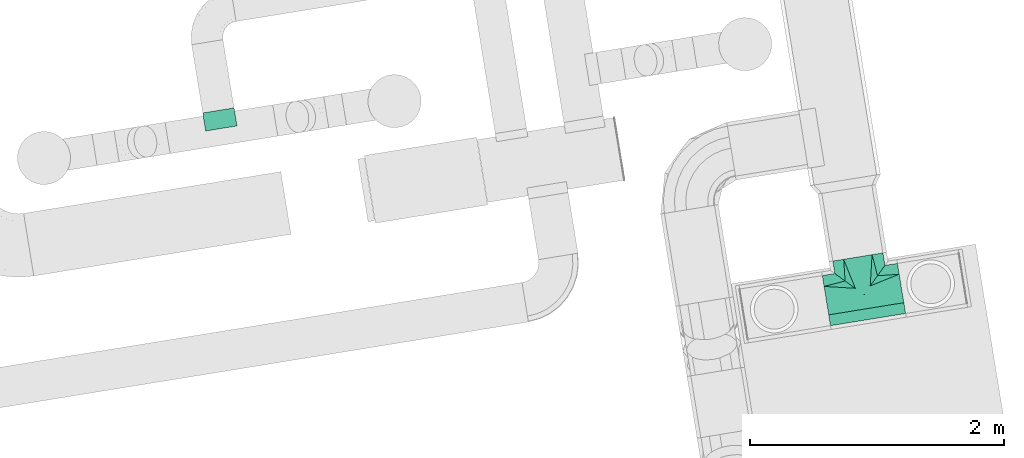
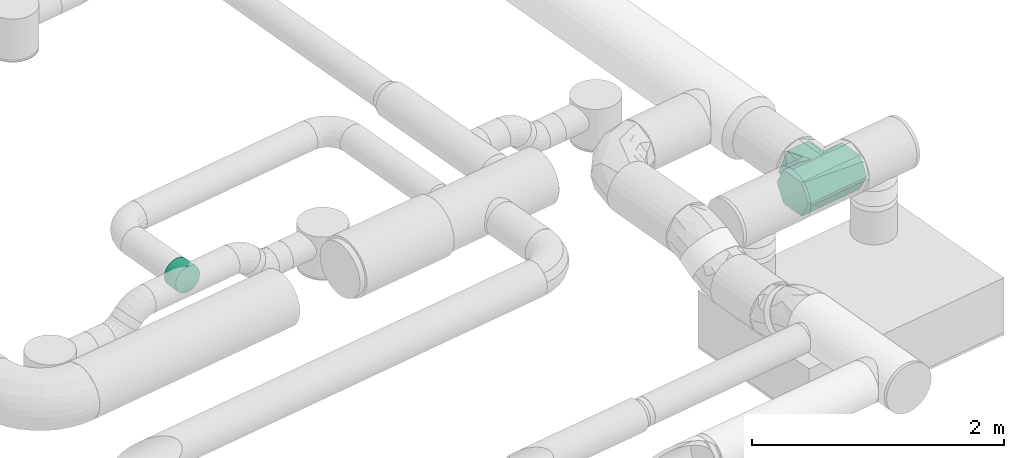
# One storey, part 32 of 39: 2 flow fittings.
"""IFC2X3 building model written with IfcOpenShell, lengths in millimetres."""

from ifc_helpers import new_model, entity, si_unit, converted_unit, derived_unit, direction, frame, origin, origin_with_axes, place, context, subcontext, project, spatial, faceted_brep, source, transform, mapped, material, type_object, element, save


model = new_model("IFC2X3")

# Units and contexts
model_context = context("Model", 3, precision=0.01, world=origin(), true_north=direction((6.12323399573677e-17, 1.0)))
plan_context = context("Plan", 3, precision=1e-05, world=origin_with_axes())
body_context = subcontext(model_context, "Body", "Model", "MODEL_VIEW")
ifc_project = project(units=[converted_unit("PLANEANGLEUNIT", "DEGREE", entity("IfcPositiveLengthMeasure", 0.0174532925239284), si_unit("PLANEANGLEUNIT", "RADIAN"), dimensions=[0, 0, 0, 0, 0, 0, 0]), si_unit("AREAUNIT", "SQUARE_METRE"), si_unit("LENGTHUNIT", "METRE", prefix="MILLI"), si_unit("MASSUNIT", "GRAM", prefix="KILO"), si_unit("POWERUNIT", "WATT"), si_unit("PRESSUREUNIT", "PASCAL", prefix="KILO"), si_unit("FORCEUNIT", "NEWTON", prefix="KILO"), si_unit("ELECTRICVOLTAGEUNIT", "VOLT"), si_unit("ELECTRICCURRENTUNIT", "AMPERE"), si_unit("THERMODYNAMICTEMPERATUREUNIT", "DEGREE_CELSIUS"), si_unit("TIMEUNIT", "SECOND"), si_unit("VOLUMEUNIT", "CUBIC_METRE"), derived_unit("LINEARVELOCITYUNIT", [(si_unit("LENGTHUNIT", "METRE"), 1), (si_unit("TIMEUNIT", "SECOND"), -1)]), derived_unit("VOLUMETRICFLOWRATEUNIT", [(si_unit("VOLUMEUNIT", "CUBIC_METRE"), 1), (si_unit("TIMEUNIT", "SECOND"), -1)]), derived_unit("THERMALTRANSMITTANCEUNIT", [(si_unit("POWERUNIT", "WATT"), 1), (si_unit("THERMODYNAMICTEMPERATUREUNIT", "KELVIN"), -1), (si_unit("AREAUNIT", "SQUARE_METRE"), -1)]), derived_unit("SOUNDPRESSUREUNIT", [(si_unit("PRESSUREUNIT", "PASCAL"), 1)])], contexts=[model_context, plan_context])

# Site, building, storey
site_placement = place(None, frame((-0.00071070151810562, 0.00438415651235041, 0.0), z_axis=(0.0, 0.0, 1.0), x_axis=(-0.160236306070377, 0.987078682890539, 0.0)))
site = spatial("IfcSite", under=ifc_project, at=site_placement, Name="Default", CompositionType="ELEMENT")
building_placement = place(site_placement, origin_with_axes())
building = spatial("IfcBuilding", under=site, at=building_placement, CompositionType="ELEMENT")
storey_placement = place(building_placement, frame((0.0, 0.0, 50999.9999999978), z_axis=(0.0, 0.0, 1.0), x_axis=(1.0, 0.0, 0.0)))
storey = spatial("IfcBuildingStorey", under=building, at=storey_placement, Name="Nivå D", CompositionType="ELEMENT", Elevation=50999.9999999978)

# Flow fittings
ifc_material = material(Name="<Unnamed>")
duct_fitting_type_1 = type_object("IfcDuctFittingType", Name="magicirc_tee_centric_90_1:magicirc_tee_centric_90_001", PredefinedType="NOTDEFINED", material=ifc_material)
shared_shape_1 = source(origin(), body_context, "Body", "Brep", [
    faceted_brep([(-300.0, -200.0, 0.0), (-300.0, -156.806474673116, 82.2983865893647), (-300.0, -113.612949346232, 164.59677317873), (-300.0, 0.0, 164.596773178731), (-300.0, 113.61294934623, 164.596773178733), (-300.0, 200.0, 0.0), (-300.0, 113.612949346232, -164.596773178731), (-300.0, 0.0, -164.596773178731), (-300.0, -113.61294934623, -164.596773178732), (-300.0, -156.806474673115, -82.2983865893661), (300.0, 0.0, -164.596773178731), (300.0, 113.61294934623, -164.596773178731), (300.0, 200.0, 0.0), (300.0, 113.612949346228, 164.596773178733), (300.0, 0.0, 164.596773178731), (300.0, -113.612949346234, 164.59677317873), (300.0, -156.806474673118, 82.2983865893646), (300.0, -200.0, 0.0), (300.0, -156.806474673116, -82.2983865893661), (300.0, -113.612949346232, -164.596773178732), (200.0, -200.0, 0.0), (183.142354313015, -183.142354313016, 80.3671453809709), (-200.0, -200.0, 0.0), (-183.142354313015, -183.142354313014, 80.3671453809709), (129.181493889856, -129.181493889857, 152.683141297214), (59.5456298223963, -59.5456298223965, 190.930138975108), (-129.181493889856, -129.181493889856, 152.683141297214), (0.0, 0.0, 200.0), (-59.5456298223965, -59.5456298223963, 190.930138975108), (-183.142354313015, -183.142354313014, -80.3671453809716), (0.0, 0.0, -200.0), (59.5456298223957, -59.5456298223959, -190.930138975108), (-129.181493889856, -129.181493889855, -152.683141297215), (-59.5456298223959, -59.5456298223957, -190.930138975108), (129.181493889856, -129.181493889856, -152.683141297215), (183.142354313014, -183.142354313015, -80.3671453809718), (0.0, -300.0, -164.596773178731), (113.612949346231, -300.0, -164.596773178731), (156.806474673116, -300.0, -82.2983865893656), (200.0, -300.0, 0.0), (156.806474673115, -300.0, 82.298386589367), (113.612949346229, -300.0, 164.596773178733), (0.0, -300.0, 164.596773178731), (-113.612949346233, -300.0, 164.59677317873), (-156.806474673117, -300.0, 82.2983865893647), (-200.0, -300.0, 0.0), (-156.806474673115, -300.0, -82.2983865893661), (-113.612949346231, -300.0, -164.596773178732)], [[[0, 1, 2, 3, 4, 5, 6, 7, 8, 9]], [[10, 11, 12, 13, 14, 15, 16, 17, 18, 19]], [[20, 17, 21]], [[0, 22, 23]], [[24, 21, 16]], [[16, 15, 24]], [[25, 15, 14]], [[0, 23, 1]], [[1, 26, 2]], [[21, 17, 16]], [[26, 1, 23]], [[14, 13, 27]], [[14, 27, 25]], [[5, 4, 13, 12]], [[2, 28, 3]], [[2, 26, 28]], [[13, 4, 27]], [[4, 3, 27]], [[27, 3, 28]], [[24, 15, 25]], [[6, 5, 12, 11]], [[29, 0, 9]], [[30, 11, 10]], [[10, 19, 31]], [[6, 11, 30]], [[7, 6, 30]], [[32, 8, 33]], [[33, 7, 30]], [[33, 8, 7]], [[18, 34, 19]], [[35, 18, 17]], [[17, 20, 35]], [[29, 22, 0]], [[34, 18, 35]], [[30, 10, 31]], [[8, 32, 9]], [[9, 32, 29]], [[34, 31, 19]], [[36, 37, 38, 39, 40, 41, 42, 43, 44, 45, 46, 47]], [[22, 45, 23]], [[23, 45, 44, 43]], [[42, 41, 25, 28, 43]], [[26, 23, 43]], [[26, 43, 28]], [[21, 41, 40, 39]], [[21, 39, 20]], [[27, 28, 25]], [[21, 24, 41]], [[41, 24, 25]], [[20, 39, 35]], [[35, 39, 38, 37]], [[31, 37, 36, 47, 33]], [[34, 35, 37]], [[31, 34, 37]], [[29, 47, 46, 45]], [[29, 45, 22]], [[47, 32, 33]], [[30, 31, 33]], [[29, 32, 47]]]),
])
flow_fitting_1_placement = place(storey_placement, frame((771571.619644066, -601972.905078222, 3300.0), z_axis=(0.0, 0.0, 1.0), x_axis=(0.0, 1.0, 0.0)))
element("IfcFlowFitting", 1, at=flow_fitting_1_placement, inside=storey, type_object=duct_fitting_type_1, material=ifc_material, Name="magicirc_tee_centric_90_1:magicirc_tee_centric_90_001", ObjectType="magicirc_tee_centric_90_1:magicirc_tee_centric_90_001", context=body_context, shape_type="MappedRepresentation", body=[
    mapped(shared_shape_1, transform((0.0, 0.0, 0.0), scale=1.0)),
])
duct_fitting_type_2 = type_object("IfcDuctFittingType", Name="magicirc_tapoutlet_1:magicirc_tapoutlet_001", PredefinedType="NOTDEFINED", material=ifc_material)
shared_shape_2 = source(origin(), body_context, "Body", "Brep", [
    faceted_brep([(-118.903999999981, 0.0, -125.0), (-118.903999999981, -32.3523806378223, -120.740728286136), (-118.903999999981, -62.500000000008, -108.253175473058), (-118.903999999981, -88.3883476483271, -88.3883476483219), (-118.903999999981, -108.253175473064, -62.5000000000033), (-118.903999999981, -120.740728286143, -32.352380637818), (-118.903999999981, -125.0, 0.0), (-118.903999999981, -120.740728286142, 32.3523806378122), (-118.903999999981, -108.253175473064, 62.4999999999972), (-118.903999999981, -88.3883476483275, 88.3883476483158), (-118.903999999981, -62.5000000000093, 108.253175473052), (-118.903999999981, -32.3523806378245, 120.740728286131), (-118.903999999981, 0.0, 125.0), (-118.903999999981, 32.3523806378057, 120.740728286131), (-118.903999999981, 62.4999999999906, 108.253175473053), (-118.903999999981, 88.3883476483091, 88.3883476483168), (-118.903999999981, 108.253175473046, 62.4999999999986), (-118.903999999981, 120.740728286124, 32.3523806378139), (-118.903999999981, 125.0, 0.0), (-118.903999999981, 120.740728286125, -32.3523806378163), (-118.903999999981, 108.253175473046, -62.5000000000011), (-118.903999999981, 88.3883476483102, -88.3883476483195), (-118.903999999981, 62.4999999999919, -108.253175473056), (-118.903999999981, 32.3523806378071, -120.740728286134), (0.0, 0.0, 125.0), (25.0, 0.0, 125.0), (25.0, 32.3523806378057, 120.740728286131), (0.0, 32.3523806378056, 120.740728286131), (25.0, 62.4999999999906, 108.253175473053), (0.0, 62.4999999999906, 108.253175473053), (25.0, 88.3883476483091, 88.3883476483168), (0.0, 88.3883476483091, 88.3883476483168), (0.0, 108.253175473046, 62.4999999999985), (25.0, 108.253175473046, 62.4999999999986), (25.0, 120.740728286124, 32.3523806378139), (0.0, 120.740728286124, 32.3523806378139), (25.0, 125.0, 0.0), (0.0, 125.0, 0.0), (0.0, 120.740728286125, -32.3523806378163), (25.0, 120.740728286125, -32.3523806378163), (25.0, 108.253175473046, -62.5000000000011), (0.0, 108.253175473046, -62.5000000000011), (25.0, 88.3883476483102, -88.3883476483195), (0.0, 88.3883476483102, -88.3883476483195), (0.0, 62.4999999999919, -108.253175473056), (25.0, 62.4999999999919, -108.253175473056), (25.0, 32.3523806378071, -120.740728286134), (0.0, 32.3523806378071, -120.740728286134), (25.0, 0.0, -125.0), (0.0, 0.0, -125.0), (25.0, -32.3523806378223, -120.740728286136), (0.0, -32.3523806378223, -120.740728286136), (25.0, -62.500000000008, -108.253175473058), (0.0, -62.500000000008, -108.253175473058), (25.0, -88.3883476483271, -88.3883476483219), (0.0, -88.3883476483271, -88.3883476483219), (0.0, -108.253175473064, -62.5000000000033), (25.0, -108.253175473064, -62.5000000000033), (25.0, -120.740728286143, -32.352380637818), (0.0, -120.740728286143, -32.352380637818), (25.0, -125.0, 0.0), (0.0, -125.0, 0.0), (25.0, -120.740728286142, 32.3523806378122), (0.0, -120.740728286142, 32.3523806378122), (25.0, -108.253175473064, 62.4999999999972), (0.0, -108.253175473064, 62.4999999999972), (25.0, -88.3883476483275, 88.3883476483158), (0.0, -88.3883476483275, 88.3883476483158), (0.0, -62.5000000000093, 108.253175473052), (25.0, -62.5000000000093, 108.253175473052), (25.0, -32.3523806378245, 120.740728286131), (0.0, -32.3523806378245, 120.740728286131)], [[[0, 1, 2, 3, 4, 5, 6, 7, 8, 9, 10, 11, 12, 13, 14, 15, 16, 17, 18, 19, 20, 21, 22, 23]], [[13, 12, 24, 25, 26, 27]], [[14, 13, 27, 26, 28, 29]], [[29, 28, 30, 31, 15, 14]], [[17, 16, 32, 33, 34, 35]], [[18, 17, 35, 34, 36, 37]], [[31, 30, 33, 32, 16, 15]], [[38, 39, 40, 41, 20, 19]], [[37, 36, 39, 38, 19, 18]], [[21, 20, 41, 40, 42, 43]], [[23, 22, 44, 45, 46, 47]], [[0, 23, 47, 46, 48, 49]], [[43, 42, 45, 44, 22, 21]], [[1, 0, 49, 48, 50, 51]], [[2, 1, 51, 50, 52, 53]], [[53, 52, 54, 55, 3, 2]], [[5, 4, 56, 57, 58, 59]], [[6, 5, 59, 58, 60, 61]], [[55, 54, 57, 56, 4, 3]], [[7, 6, 61, 60, 62, 63]], [[8, 7, 63, 62, 64, 65]], [[65, 64, 66, 67, 9, 8]], [[11, 10, 68, 69, 70, 71]], [[12, 11, 71, 70, 25, 24]], [[67, 66, 69, 68, 10, 9]], [[46, 45, 42, 40, 39, 36, 34, 33, 30, 28, 26, 25, 70, 69, 66, 64, 62, 60, 58, 57, 54, 52, 50, 48]]]),
    faceted_brep([(25.0, 32.352380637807, -120.740728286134), (25.0, 62.4999999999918, -108.253175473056), (25.0, 88.3883476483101, -88.3883476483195), (25.0, 108.253175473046, -62.5000000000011), (25.0, 120.740728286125, -32.3523806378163), (25.0, 125.0, 0.0), (25.0, 120.740728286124, 32.3523806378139), (25.0, 108.253175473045, 62.4999999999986), (25.0, 88.388347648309, 88.3883476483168), (25.0, 62.4999999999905, 108.253175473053), (25.0, 32.3523806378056, 120.740728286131), (25.0, 0.0, 125.0), (25.0, -32.3523806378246, 120.740728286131), (25.0, -62.5000000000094, 108.253175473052), (25.0, -88.3883476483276, 88.3883476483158), (25.0, -108.253175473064, 62.4999999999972), (25.0, -120.740728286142, 32.3523806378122), (25.0, -125.0, 0.0), (25.0, -120.740728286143, -32.352380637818), (25.0, -108.253175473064, -62.5000000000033), (25.0, -88.3883476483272, -88.3883476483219), (25.0, -62.500000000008, -108.253175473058), (25.0, -32.3523806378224, -120.740728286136), (25.0, 0.0, -125.0), (0.0, 0.0, 125.0), (0.0, 32.3523806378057, 120.740728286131), (-118.903999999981, 32.3523806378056, 120.740728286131), (-118.903999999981, 0.0, 125.0), (0.0, 62.4999999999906, 108.253175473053), (-118.903999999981, 62.4999999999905, 108.253175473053), (0.0, 88.3883476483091, 88.3883476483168), (-118.903999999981, 88.388347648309, 88.3883476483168), (0.0, 108.253175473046, 62.4999999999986), (0.0, 120.740728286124, 32.3523806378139), (-118.903999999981, 120.740728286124, 32.3523806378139), (-118.903999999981, 108.253175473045, 62.4999999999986), (0.0, 125.0, 0.0), (-118.903999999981, 125.0, 0.0), (0.0, 120.740728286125, -32.3523806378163), (-118.903999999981, 120.740728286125, -32.3523806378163), (0.0, 108.253175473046, -62.5000000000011), (-118.903999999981, 108.253175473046, -62.5000000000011), (0.0, 88.3883476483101, -88.3883476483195), (-118.903999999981, 88.3883476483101, -88.3883476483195), (0.0, 0.0, -125.0), (-118.903999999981, 0.0, -125.0), (-118.903999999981, 32.352380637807, -120.740728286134), (0.0, 32.3523806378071, -120.740728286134), (-118.903999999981, 62.4999999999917, -108.253175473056), (0.0, 62.4999999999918, -108.253175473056), (0.0, -32.3523806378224, -120.740728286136), (-118.903999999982, -32.3523806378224, -120.740728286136), (0.0, -62.500000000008, -108.253175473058), (-118.903999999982, -62.5000000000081, -108.253175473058), (0.0, -88.3883476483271, -88.3883476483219), (-118.903999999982, -88.3883476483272, -88.3883476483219), (0.0, -108.253175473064, -62.5000000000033), (0.0, -120.740728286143, -32.352380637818), (-118.903999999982, -120.740728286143, -32.352380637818), (-118.903999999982, -108.253175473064, -62.5000000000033), (0.0, -125.0, 0.0), (-118.903999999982, -125.0, 0.0), (0.0, -120.740728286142, 32.3523806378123), (-118.903999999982, -120.740728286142, 32.3523806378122), (0.0, -108.253175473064, 62.4999999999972), (-118.903999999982, -108.253175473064, 62.4999999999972), (0.0, -88.3883476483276, 88.3883476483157), (-118.903999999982, -88.3883476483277, 88.3883476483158), (0.0, -62.5000000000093, 108.253175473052), (0.0, -32.3523806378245, 120.740728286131), (-118.903999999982, -32.3523806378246, 120.740728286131), (-118.903999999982, -62.5000000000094, 108.253175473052)], [[[0, 1, 2, 3, 4, 5, 6, 7, 8, 9, 10, 11, 12, 13, 14, 15, 16, 17, 18, 19, 20, 21, 22, 23]], [[24, 11, 10, 25, 26, 27]], [[25, 10, 9, 28, 29, 26]], [[28, 9, 8, 30, 31, 29]], [[32, 7, 6, 33, 34, 35]], [[33, 6, 5, 36, 37, 34]], [[30, 8, 7, 32, 35, 31]], [[36, 5, 4, 38, 39, 37]], [[38, 4, 3, 40, 41, 39]], [[40, 3, 2, 42, 43, 41]], [[0, 23, 44, 45, 46, 47]], [[1, 0, 47, 46, 48, 49]], [[42, 2, 1, 49, 48, 43]], [[44, 23, 22, 50, 51, 45]], [[50, 22, 21, 52, 53, 51]], [[52, 21, 20, 54, 55, 53]], [[56, 19, 18, 57, 58, 59]], [[57, 18, 17, 60, 61, 58]], [[54, 20, 19, 56, 59, 55]], [[60, 17, 16, 62, 63, 61]], [[62, 16, 15, 64, 65, 63]], [[64, 15, 14, 66, 67, 65]], [[68, 13, 12, 69, 70, 71]], [[69, 12, 11, 24, 27, 70]], [[66, 14, 13, 68, 71, 67]], [[45, 51, 53, 55, 59, 58, 61, 63, 65, 67, 71, 70, 27, 26, 29, 31, 35, 34, 37, 39, 41, 43, 48, 46]]]),
    faceted_brep([(-118.903999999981, 0.0, -125.0), (-118.903999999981, -32.3523806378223, -120.740728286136), (-118.903999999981, -62.500000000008, -108.253175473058), (-118.903999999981, -88.3883476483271, -88.3883476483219), (-118.903999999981, -108.253175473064, -62.5000000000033), (-118.903999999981, -120.740728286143, -32.352380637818), (-118.903999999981, -125.0, 0.0), (-118.903999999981, -120.740728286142, 32.3523806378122), (-118.903999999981, -108.253175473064, 62.4999999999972), (-118.903999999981, -88.3883476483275, 88.3883476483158), (-118.903999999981, -62.5000000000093, 108.253175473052), (-118.903999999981, -32.3523806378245, 120.740728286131), (-118.903999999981, 0.0, 125.0), (-118.903999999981, 32.3523806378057, 120.740728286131), (-118.903999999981, 62.4999999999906, 108.253175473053), (-118.903999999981, 88.3883476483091, 88.3883476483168), (-118.903999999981, 108.253175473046, 62.4999999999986), (-118.903999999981, 120.740728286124, 32.3523806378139), (-118.903999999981, 125.0, 0.0), (-118.903999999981, 120.740728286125, -32.3523806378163), (-118.903999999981, 108.253175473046, -62.5000000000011), (-118.903999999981, 88.3883476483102, -88.3883476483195), (-118.903999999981, 62.4999999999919, -108.253175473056), (-118.903999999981, 32.3523806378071, -120.740728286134), (0.0, 0.0, 125.0), (25.0, 0.0, 125.0), (25.0, 32.3523806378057, 120.740728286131), (0.0, 32.3523806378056, 120.740728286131), (25.0, 62.4999999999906, 108.253175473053), (0.0, 62.4999999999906, 108.253175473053), (25.0, 88.3883476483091, 88.3883476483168), (0.0, 88.3883476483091, 88.3883476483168), (0.0, 108.253175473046, 62.4999999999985), (25.0, 108.253175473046, 62.4999999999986), (25.0, 120.740728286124, 32.3523806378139), (0.0, 120.740728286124, 32.3523806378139), (25.0, 125.0, 0.0), (0.0, 125.0, 0.0), (0.0, 120.740728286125, -32.3523806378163), (25.0, 120.740728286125, -32.3523806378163), (25.0, 108.253175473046, -62.5000000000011), (0.0, 108.253175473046, -62.5000000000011), (25.0, 88.3883476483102, -88.3883476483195), (0.0, 88.3883476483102, -88.3883476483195), (0.0, 62.4999999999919, -108.253175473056), (25.0, 62.4999999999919, -108.253175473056), (25.0, 32.3523806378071, -120.740728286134), (0.0, 32.3523806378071, -120.740728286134), (25.0, 0.0, -125.0), (0.0, 0.0, -125.0), (25.0, -32.3523806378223, -120.740728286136), (0.0, -32.3523806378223, -120.740728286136), (25.0, -62.500000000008, -108.253175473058), (0.0, -62.500000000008, -108.253175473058), (25.0, -88.3883476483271, -88.3883476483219), (0.0, -88.3883476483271, -88.3883476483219), (0.0, -108.253175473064, -62.5000000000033), (25.0, -108.253175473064, -62.5000000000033), (25.0, -120.740728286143, -32.352380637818), (0.0, -120.740728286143, -32.352380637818), (25.0, -125.0, 0.0), (0.0, -125.0, 0.0), (25.0, -120.740728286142, 32.3523806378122), (0.0, -120.740728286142, 32.3523806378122), (25.0, -108.253175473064, 62.4999999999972), (0.0, -108.253175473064, 62.4999999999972), (25.0, -88.3883476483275, 88.3883476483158), (0.0, -88.3883476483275, 88.3883476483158), (0.0, -62.5000000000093, 108.253175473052), (25.0, -62.5000000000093, 108.253175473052), (25.0, -32.3523806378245, 120.740728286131), (0.0, -32.3523806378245, 120.740728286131)], [[[0, 1, 2, 3, 4, 5, 6, 7, 8, 9, 10, 11, 12, 13, 14, 15, 16, 17, 18, 19, 20, 21, 22, 23]], [[13, 12, 24, 25, 26, 27]], [[14, 13, 27, 26, 28, 29]], [[29, 28, 30, 31, 15, 14]], [[17, 16, 32, 33, 34, 35]], [[18, 17, 35, 34, 36, 37]], [[31, 30, 33, 32, 16, 15]], [[38, 39, 40, 41, 20, 19]], [[37, 36, 39, 38, 19, 18]], [[21, 20, 41, 40, 42, 43]], [[23, 22, 44, 45, 46, 47]], [[0, 23, 47, 46, 48, 49]], [[43, 42, 45, 44, 22, 21]], [[1, 0, 49, 48, 50, 51]], [[2, 1, 51, 50, 52, 53]], [[53, 52, 54, 55, 3, 2]], [[5, 4, 56, 57, 58, 59]], [[6, 5, 59, 58, 60, 61]], [[55, 54, 57, 56, 4, 3]], [[7, 6, 61, 60, 62, 63]], [[8, 7, 63, 62, 64, 65]], [[65, 64, 66, 67, 9, 8]], [[11, 10, 68, 69, 70, 71]], [[12, 11, 71, 70, 25, 24]], [[67, 66, 69, 68, 10, 9]], [[46, 45, 42, 40, 39, 36, 34, 33, 30, 28, 26, 25, 70, 69, 66, 64, 62, 60, 58, 57, 54, 52, 50, 48]]]),
])
flow_fitting_2_placement = place(storey_placement, frame((773794.47928963, -597182.555921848, 3310.0), z_axis=(0.0, 0.0, -1.0), x_axis=(1.0, 0.0, 0.0)))
element("IfcFlowFitting", 2, at=flow_fitting_2_placement, inside=storey, type_object=duct_fitting_type_2, material=ifc_material, Name="magicirc_tapoutlet_1:magicirc_tapoutlet_001", ObjectType="magicirc_tapoutlet_1:magicirc_tapoutlet_001", context=body_context, shape_type="MappedRepresentation", body=[
    mapped(shared_shape_2, transform((0.0, 0.0, 0.0), scale=1.0)),
])

save(model, "model.ifc")
